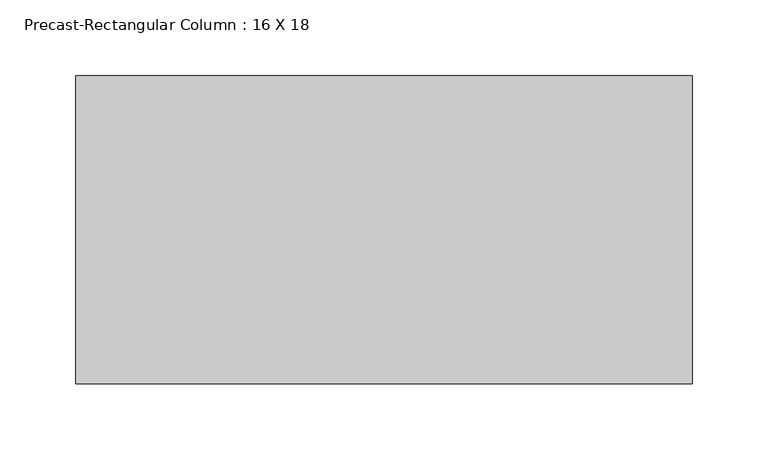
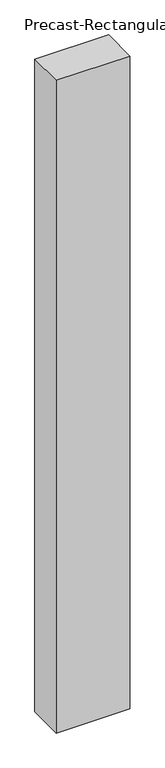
"""IFC4 building model written with IfcOpenShell, lengths in millimetres: column geometry, Precast-Rectangular Column : 16 X 18."""

from ifc_helpers import new_model, si_unit, origin, origin_with_axes, place, context, project, spatial, polyline, outline, extrude, source, transform, mapped, element, save


def precast_rectangular_column_16_x_18_bd0b0462(model_context):
    return source(origin(), model_context, "Body", "SweptSolid", [
        extrude(outline(polyline([(203.2, 101.6), (203.2, -101.6), (-203.2, -101.6), (-203.2, 101.6), (203.2, 101.6)])), origin_with_axes(), (0.0, 0.0, 1.0), 3810.0),
    ])


if __name__ == "__main__":
    model = new_model("IFC4")
    model_context = context("Model", 3, world=origin())
    ifc_project = project(units=[si_unit("LENGTHUNIT", "METRE", prefix="MILLI")], contexts=[model_context])
    site = spatial("IfcSite", under=ifc_project)
    building = spatial("IfcBuilding", under=site)
    placement = place(None, origin())
    precast_rectangular_column_16_x_18_shape = precast_rectangular_column_16_x_18_bd0b0462(model_context)
    element("IfcColumn", 1, ObjectType="Precast-Rectangular Column : 16 X 18", at=placement, inside=building, context=model_context, shape_type="MappedRepresentation", body=[
        mapped(precast_rectangular_column_16_x_18_shape, transform((0.0, 0.0, 0.0), x_axis=(1.0, 0.0, 0.0), y_axis=(0.0, 1.0, 0.0), z_axis=(0.0, 0.0, 1.0))),
    ])
    save(model, "model.ifc")
